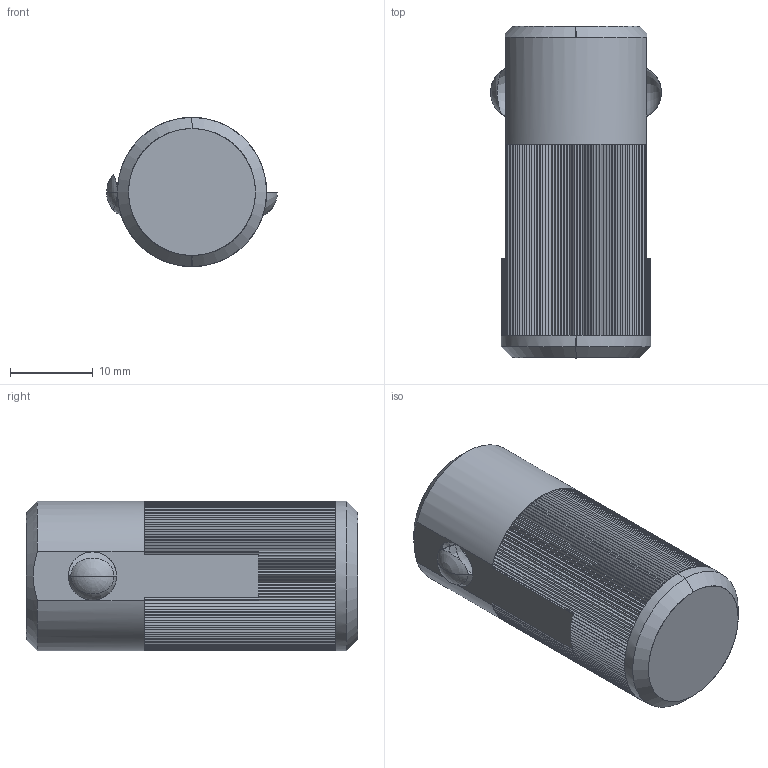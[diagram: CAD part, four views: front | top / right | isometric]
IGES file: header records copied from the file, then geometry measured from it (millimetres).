
Start section: SolidWorks IGES file using analytic representation for surfaces
Global section: file name: C:\Documents and Settings\IANO\Desktop\Temp File\Process pending\NEW\32800_v2\32800_v2_20170703_IGES\Default.igs; native system: SolidWorks 2009; preprocessor: SolidWorks 2009; author: IANO; date: 170630.124745; units: millimetre
Bounding box: 20.6 x 40 x 18 mm (x, y, z)
Surface area: 7426.9 mm2 (no closed solid volume)
Topology: 0 solids, 0 shells, 597 faces, 3046 edges, 3038 vertices
Faces by surface type: bspline 568, revolution 29
